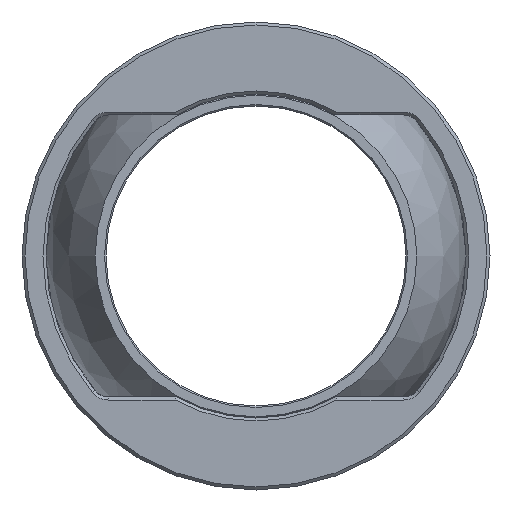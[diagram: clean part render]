
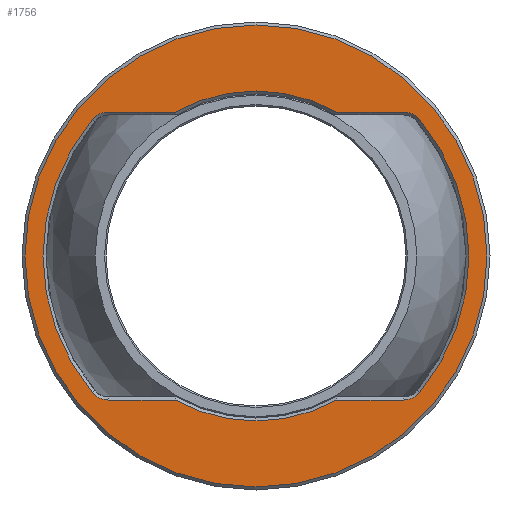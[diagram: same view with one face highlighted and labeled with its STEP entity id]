
A CAD part, front view. The second image highlights one B-rep face of the part: STEP entity #1756.
In plain terms, the highlighted planar face has unit normal (0, -1, 0).
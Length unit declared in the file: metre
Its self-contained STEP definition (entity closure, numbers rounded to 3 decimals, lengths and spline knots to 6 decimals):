
#1756=ADVANCED_FACE('',(#4320,#4321),#4322,.F.);
#4320=FACE_OUTER_BOUND('',#8578,.T.);
#4321=FACE_BOUND('',#8579,.T.);
#4322=PLANE('',#8580);
#8578=EDGE_LOOP('',(#14203));
#8579=EDGE_LOOP('',(#14204,#14205,#14206,#14207,#14208,#14209,#14210,#14211,#14212,#14213,#14214,#14215));
#8580=AXIS2_PLACEMENT_3D('',#14216,#14217,#14218);
#14203=ORIENTED_EDGE('',*,*,#15542,.F.);
#14204=ORIENTED_EDGE('',*,*,#15537,.T.);
#14205=ORIENTED_EDGE('',*,*,#15543,.T.);
#14206=ORIENTED_EDGE('',*,*,#15544,.T.);
#14207=ORIENTED_EDGE('',*,*,#15545,.T.);
#14208=ORIENTED_EDGE('',*,*,#15546,.T.);
#14209=ORIENTED_EDGE('',*,*,#15547,.T.);
#14210=ORIENTED_EDGE('',*,*,#15548,.T.);
#14211=ORIENTED_EDGE('',*,*,#15531,.T.);
#14212=ORIENTED_EDGE('',*,*,#15549,.T.);
#14213=ORIENTED_EDGE('',*,*,#15550,.T.);
#14214=ORIENTED_EDGE('',*,*,#15551,.T.);
#14215=ORIENTED_EDGE('',*,*,#15520,.T.);
#14216=CARTESIAN_POINT('',(0.641256,0.234206,0.0));
#14217=DIRECTION('',(0.0,1.0,0.0));
#14218=DIRECTION('',(0.0,0.0,1.0));
#15520=EDGE_CURVE('',#15658,#15663,#15665,.T.);
#15531=EDGE_CURVE('',#15683,#15680,#15684,.T.);
#15537=EDGE_CURVE('',#15663,#15690,#15692,.T.);
#15542=EDGE_CURVE('',#15698,#15698,#15699,.T.);
#15543=EDGE_CURVE('',#15690,#15700,#15701,.T.);
#15544=EDGE_CURVE('',#15700,#15702,#15703,.T.);
#15545=EDGE_CURVE('',#15702,#15704,#15705,.T.);
#15546=EDGE_CURVE('',#15704,#15706,#15707,.T.);
#15547=EDGE_CURVE('',#15706,#15708,#15709,.T.);
#15548=EDGE_CURVE('',#15708,#15683,#15710,.T.);
#15549=EDGE_CURVE('',#15680,#15711,#15712,.T.);
#15550=EDGE_CURVE('',#15711,#15713,#15714,.T.);
#15551=EDGE_CURVE('',#15713,#15658,#15715,.T.);
#15658=VERTEX_POINT('',#15854);
#15663=VERTEX_POINT('',#15860);
#15665=CIRCLE('',#15863,0.071);
#15680=VERTEX_POINT('',#15878);
#15683=VERTEX_POINT('',#15884);
#15684=LINE('',#15885,#15886);
#15690=VERTEX_POINT('',#15894);
#15692=CIRCLE('',#15897,0.007);
#15698=VERTEX_POINT('',#15918);
#15699=CIRCLE('',#15919,0.077);
#15700=VERTEX_POINT('',#15920);
#15701=LINE('',#15921,#15922);
#15702=VERTEX_POINT('',#15923);
#15703=CIRCLE('',#15924,0.055);
#15704=VERTEX_POINT('',#15925);
#15705=LINE('',#15926,#15927);
#15706=VERTEX_POINT('',#15928);
#15707=CIRCLE('',#15929,0.007);
#15708=VERTEX_POINT('',#15930);
#15709=CIRCLE('',#15931,0.071);
#15710=CIRCLE('',#15932,0.007);
#15711=VERTEX_POINT('',#15933);
#15712=CIRCLE('',#15934,0.055);
#15713=VERTEX_POINT('',#15935);
#15714=LINE('',#15936,#15937);
#15715=CIRCLE('',#15938,0.007);
#15854=CARTESIAN_POINT('',(0.641738,0.234206,-0.045484));
#15860=CARTESIAN_POINT('',(0.641738,0.234206,0.045484));
#15863=AXIS2_PLACEMENT_3D('',#16143,#16144,#16145);
#15878=CARTESIAN_POINT('',(0.723107,0.234206,-0.048));
#15884=CARTESIAN_POINT('',(0.745398,0.234206,-0.048));
#15885=CARTESIAN_POINT('',(0.724821,0.234206,-0.048));
#15886=VECTOR('',#16161,1.0);
#15894=CARTESIAN_POINT('',(0.647113,0.234206,0.048));
#15897=AXIS2_PLACEMENT_3D('',#16168,#16169,#16170);
#15918=CARTESIAN_POINT('',(0.696256,0.234206,0.077));
#15919=AXIS2_PLACEMENT_3D('',#16172,#16173,#16174);
#15920=CARTESIAN_POINT('',(0.669404,0.234206,0.048));
#15921=CARTESIAN_POINT('',(0.66769,0.234206,0.048));
#15922=VECTOR('',#16175,1.0);
#15923=CARTESIAN_POINT('',(0.723107,0.234206,0.048));
#15924=AXIS2_PLACEMENT_3D('',#16176,#16177,#16178);
#15925=CARTESIAN_POINT('',(0.745398,0.234206,0.048));
#15926=CARTESIAN_POINT('',(0.745398,0.234206,0.048));
#15927=VECTOR('',#16179,1.0);
#15928=CARTESIAN_POINT('',(0.750773,0.234206,0.045484));
#15929=AXIS2_PLACEMENT_3D('',#16180,#16181,#16182);
#15930=CARTESIAN_POINT('',(0.750773,0.234206,-0.045484));
#15931=AXIS2_PLACEMENT_3D('',#16183,#16184,#16185);
#15932=AXIS2_PLACEMENT_3D('',#16186,#16187,#16188);
#15933=CARTESIAN_POINT('',(0.669404,0.234206,-0.048));
#15934=AXIS2_PLACEMENT_3D('',#16189,#16190,#16191);
#15935=CARTESIAN_POINT('',(0.647113,0.234206,-0.048));
#15936=CARTESIAN_POINT('',(0.647113,0.234206,-0.048));
#15937=VECTOR('',#16192,1.0);
#15938=AXIS2_PLACEMENT_3D('',#16193,#16194,#16195);
#16143=CARTESIAN_POINT('',(0.696256,0.234206,0.));
#16144=DIRECTION('',(0.0,1.0,0.0));
#16145=DIRECTION('',(0.0,0.0,1.0));
#16161=DIRECTION('',(-1.0,0.0,0.));
#16168=CARTESIAN_POINT('',(0.647113,0.234206,0.041));
#16169=DIRECTION('',(0.0,1.0,0.0));
#16170=DIRECTION('',(0.0,0.0,1.0));
#16172=CARTESIAN_POINT('',(0.696256,0.234206,0.0));
#16173=DIRECTION('',(0.0,1.0,0.0));
#16174=DIRECTION('',(0.0,0.0,1.0));
#16175=DIRECTION('',(1.0,0.0,0.));
#16176=CARTESIAN_POINT('',(0.696256,0.234206,0.0));
#16177=DIRECTION('',(0.0,1.0,0.0));
#16178=DIRECTION('',(0.0,0.0,1.0));
#16179=DIRECTION('',(1.0,0.0,0.));
#16180=CARTESIAN_POINT('',(0.745398,0.234206,0.041));
#16181=DIRECTION('',(0.0,1.0,0.0));
#16182=DIRECTION('',(0.0,0.0,1.0));
#16183=CARTESIAN_POINT('',(0.696256,0.234206,0.));
#16184=DIRECTION('',(0.0,1.0,0.0));
#16185=DIRECTION('',(0.0,0.0,1.0));
#16186=CARTESIAN_POINT('',(0.745398,0.234206,-0.041));
#16187=DIRECTION('',(0.0,1.0,0.0));
#16188=DIRECTION('',(0.0,0.0,1.0));
#16189=CARTESIAN_POINT('',(0.696256,0.234206,0.0));
#16190=DIRECTION('',(0.0,1.0,0.0));
#16191=DIRECTION('',(0.0,0.0,1.0));
#16192=DIRECTION('',(-1.0,0.0,0.));
#16193=CARTESIAN_POINT('',(0.647113,0.234206,-0.041));
#16194=DIRECTION('',(0.0,1.0,0.0));
#16195=DIRECTION('',(0.0,0.0,1.0));
